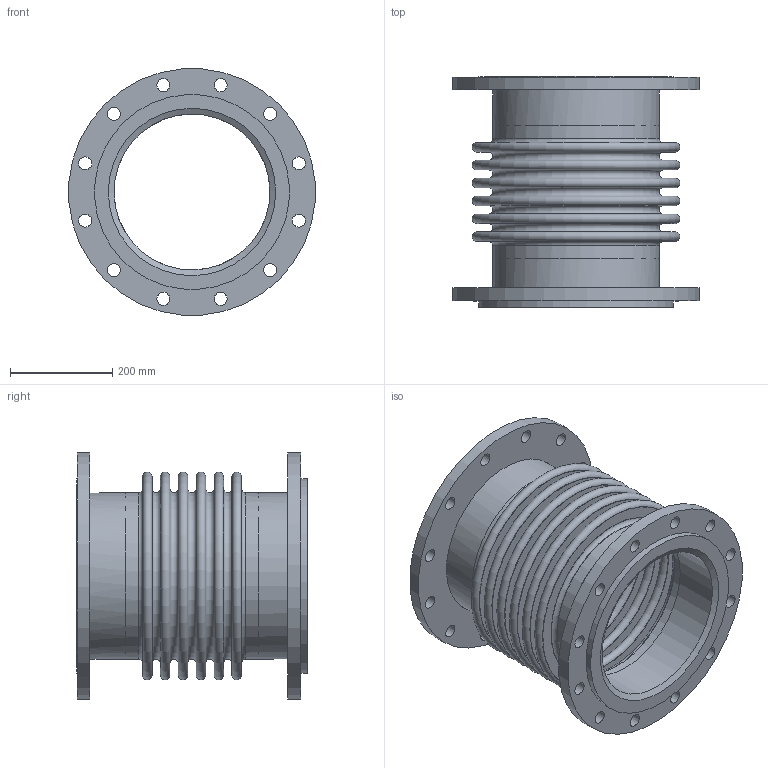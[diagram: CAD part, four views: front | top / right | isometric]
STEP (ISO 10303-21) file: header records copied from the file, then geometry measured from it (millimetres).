
FILE_DESCRIPTION(/* description */ (''),/* implementation_level */ '2;1');
FILE_NAME(/* name */ 'C:\001_Work\Designs\EFL50-ASA150LB\EFL50-12x17.75 (ASA150LB).stp',/* time_stamp */ '2016-05-10T12:41:39-04:00',/* author */ ('rramoutar'),/* organization */ ('Mason Industries Inc.'),/* preprocessor_version */ 'ST-DEVELOPER v15.6',/* originating_system */ 'Autodesk Inventor 2015',/* authorisation */ '');
FILE_SCHEMA (('CONFIG_CONTROL_DESIGN'));
Length unit declared in the file: inch
Products named in the file (1): EFL50-12x17.75
Bounding box: 480.76 x 450.85 x 480.76 mm (x, y, z)
Volume: 7594903.3 mm3; surface area: 2464406.4 mm2
Topology: 1 solids, 1 shells, 101 faces, 212 edges, 146 vertices
Faces by surface type: cylinder 37, plane 35, torus 26, cone 3
Full cylindrical faces by diameter (mm): 25.4 x24, 304.8 x2, 323.088 x2, 325.12 x2, 327.025 x3, 381 x2, 482.6 x2
Entity records: 2505 total; most frequent: DIRECTION 454, CARTESIAN_POINT 352, EDGE_LOOP 250, ORIENTED_EDGE 250, AXIS2_PLACEMENT_3D 227, FACE_BOUND 149, CIRCLE 125, VERTEX_POINT 125
